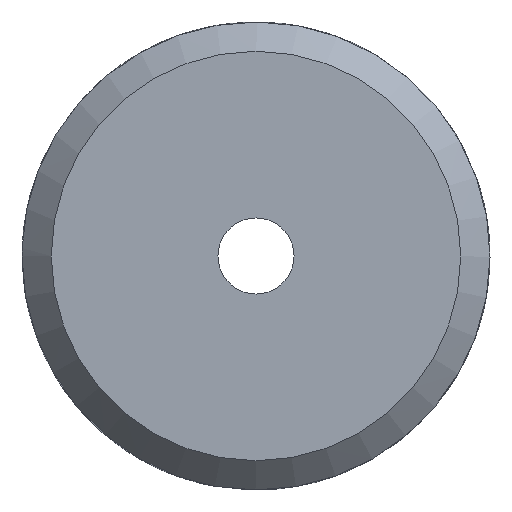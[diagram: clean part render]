
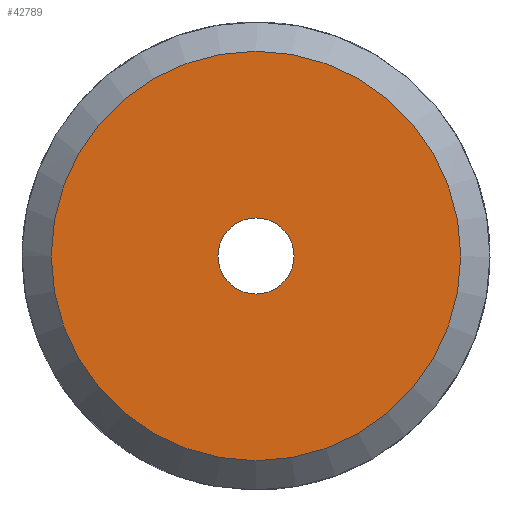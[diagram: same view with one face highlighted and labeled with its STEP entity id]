
A CAD part, left-side view. The second image highlights one B-rep face of the part: STEP entity #42789.
In plain terms, the highlighted planar face has unit normal (-1, 0, 0).
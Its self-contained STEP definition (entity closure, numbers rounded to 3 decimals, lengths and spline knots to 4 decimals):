
#11847=PLANE('',#42322);
#15350=ORIENTED_EDGE('',*,*,#16480,.F.);
#15351=ORIENTED_EDGE('',*,*,#17660,.F.);
#15353=CIRCLE('',#41718,3.5);
#15656=CIRCLE('',#42321,0.65);
#15658=VERTEX_POINT('',#19622);
#16478=VERTEX_POINT('',#41711);
#16480=EDGE_CURVE('',#15658,#15658,#15353,.T.);
#17660=EDGE_CURVE('',#16478,#16478,#15656,.T.);
#18029=EDGE_LOOP('',(#15350));
#18030=EDGE_LOOP('',(#15351));
#18399=FACE_BOUND('',#18029,.T.);
#18400=FACE_BOUND('',#18030,.T.);
#18405=DIRECTION('',(1.,0.,0.));
#18406=DIRECTION('',(0.,0.,-3.5));
#19611=DIRECTION('',(-1.,0.,0.));
#19612=DIRECTION('',(0.,0.,0.65));
#19613=DIRECTION('',(-1.,0.,0.));
#19614=DIRECTION('',(0.,1.,0.));
#19622=CARTESIAN_POINT('',(37.9523,168.5402,-3.5));
#19623=CARTESIAN_POINT('',(37.9523,168.5402,0.));
#41711=CARTESIAN_POINT('',(37.9523,168.5402,0.65));
#41712=CARTESIAN_POINT('',(37.9523,168.5402,0.));
#41713=CARTESIAN_POINT('',(37.9523,168.5402,-3.5));
#41718=AXIS2_PLACEMENT_3D('',#19623,#18405,#18406);
#42321=AXIS2_PLACEMENT_3D('',#41712,#19611,#19612);
#42322=AXIS2_PLACEMENT_3D('',#41713,#19613,#19614);
#42789=ADVANCED_FACE('',(#18399,#18400),#11847,.T.);
